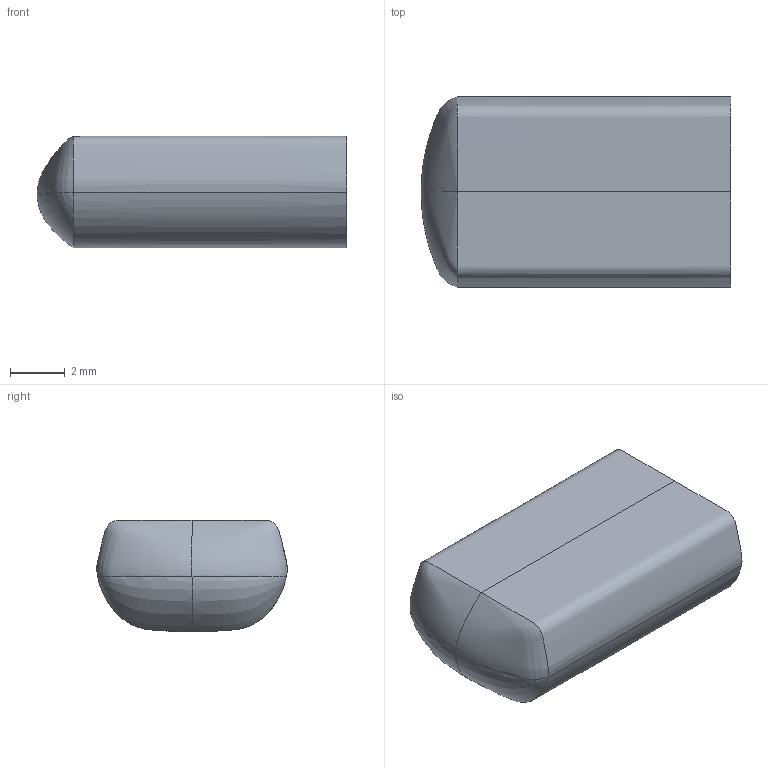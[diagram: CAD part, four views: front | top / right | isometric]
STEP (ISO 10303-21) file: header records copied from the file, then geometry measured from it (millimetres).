
FILE_DESCRIPTION((''),'2;1');
FILE_NAME('TGC3-GENERISCH','2004-11-19T',('tmeister'),(''),'PRO/ENGINEER BY PARAMETRIC TECHNOLOGY CORPORATION, 2002390','PRO/ENGINEER BY PARAMETRIC TECHNOLOGY CORPORATION, 2002390','');
FILE_SCHEMA(('CONFIG_CONTROL_DESIGN'));
Length unit declared in the file: millimetre
Products named in the file (1): TGC3-GENERISCH
Bounding box: 11.32 x 6.96 x 4.07 mm (x, y, z)
Surface area: 222.4 mm2 (no closed solid volume)
Topology: 0 solids, 0 shells, 8 faces, 40 edges, 36 vertices
Faces by surface type: bspline 8
Entity records: 2202 total; most frequent: CARTESIAN_POINT 1849, DIRECTION 40, VECTOR 40, LINE 40, TRIMMED_CURVE 40, DEFINITIONAL_REPRESENTATION 36, PCURVE 36, COMPOSITE_CURVE_SEGMENT 36
